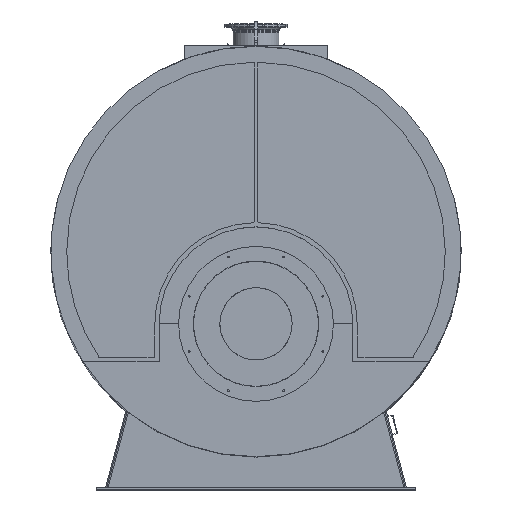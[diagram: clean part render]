
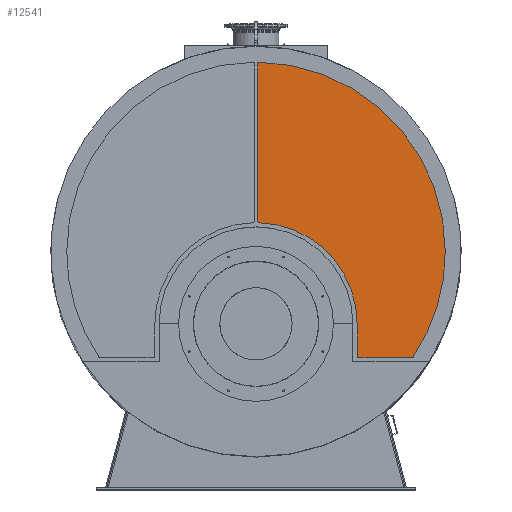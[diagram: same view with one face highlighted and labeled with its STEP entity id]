
A CAD part, top view. The second image highlights one B-rep face of the part: STEP entity #12541.
In plain terms, the highlighted planar face has unit normal (0, 0, 1).
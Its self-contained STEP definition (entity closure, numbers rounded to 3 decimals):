
#12348=CARTESIAN_POINT('',(15.,229.221,413.));
#12349=VERTEX_POINT('',#12348);
#12356=CARTESIAN_POINT('',(15.,1460.349,413.));
#12357=VERTEX_POINT('',#12356);
#12358=CARTESIAN_POINT('',(15.,1460.349,413.));
#12359=DIRECTION('',(-0.,-1.,0.));
#12360=VECTOR('',#12359,1231.128);
#12361=LINE('',#12358,#12360);
#12362=EDGE_CURVE('',#12357,#12349,#12361,.T.);
#12378=CARTESIAN_POINT('',(20.84,223.223,413.));
#12379=VERTEX_POINT('',#12378);
#12380=CARTESIAN_POINT('',(783.5,-560.,413.));
#12381=VERTEX_POINT('',#12380);
#12382=CARTESIAN_POINT('',(0.,-560.,413.));
#12383=DIRECTION('',(0.,0.,-1.));
#12384=DIRECTION('',(1.,0.,0.));
#12385=AXIS2_PLACEMENT_3D('',#12382,#12383,#12384);
#12386=CIRCLE('',#12385,783.5);
#12387=EDGE_CURVE('',#12379,#12381,#12386,.T.);
#12411=CARTESIAN_POINT('',(783.5,-813.,413.));
#12412=VERTEX_POINT('',#12411);
#12419=CARTESIAN_POINT('',(783.5,-560.,413.));
#12420=DIRECTION('',(0.,-1.,0.));
#12421=VECTOR('',#12420,253.);
#12422=LINE('',#12419,#12421);
#12423=EDGE_CURVE('',#12381,#12412,#12422,.T.);
#12435=CARTESIAN_POINT('',(1213.298,-819.,413.));
#12436=VERTEX_POINT('',#12435);
#12443=CARTESIAN_POINT('',(789.5,-819.,413.));
#12444=VERTEX_POINT('',#12443);
#12445=CARTESIAN_POINT('',(789.5,-819.,413.));
#12446=DIRECTION('',(1.,0.,-0.));
#12447=VECTOR('',#12446,423.798);
#12448=LINE('',#12445,#12447);
#12449=EDGE_CURVE('',#12444,#12436,#12448,.T.);
#12465=CARTESIAN_POINT('',(1466.5,-0.,413.));
#12466=VERTEX_POINT('',#12465);
#12474=CARTESIAN_POINT('',(21.086,1466.348,413.));
#12475=VERTEX_POINT('',#12474);
#12482=CARTESIAN_POINT('',(0.,0.,413.));
#12483=DIRECTION('',(0.,0.,1.));
#12484=DIRECTION('',(1.,0.,-0.));
#12485=AXIS2_PLACEMENT_3D('',#12482,#12483,#12484);
#12486=CIRCLE('',#12485,1466.5);
#12487=EDGE_CURVE('',#12466,#12475,#12486,.T.);
#12492=CARTESIAN_POINT('',(0.,-560.,413.));
#12493=DIRECTION('',(0.,0.,-1.));
#12494=DIRECTION('',(-1.,0.,0.));
#12495=AXIS2_PLACEMENT_3D('',#12492,#12493,#12494);
#12496=PLANE('',#12495);
#12497=ORIENTED_EDGE('',*,*,#12449,.T.);
#12498=CARTESIAN_POINT('',(1218.282,-816.34,413.));
#12499=VERTEX_POINT('',#12498);
#12500=CARTESIAN_POINT('',(1213.298,-813.,413.));
#12501=DIRECTION('',(-0.,-0.,1.));
#12502=DIRECTION('',(-1.,0.,0.));
#12503=AXIS2_PLACEMENT_3D('',#12500,#12501,#12502);
#12504=CIRCLE('',#12503,6.);
#12505=EDGE_CURVE('',#12436,#12499,#12504,.T.);
#12506=ORIENTED_EDGE('',*,*,#12505,.T.);
#12507=CARTESIAN_POINT('',(0.,0.,413.));
#12508=DIRECTION('',(0.,0.,1.));
#12509=DIRECTION('',(1.,0.,-0.));
#12510=AXIS2_PLACEMENT_3D('',#12507,#12508,#12509);
#12511=CIRCLE('',#12510,1466.5);
#12512=EDGE_CURVE('',#12499,#12466,#12511,.T.);
#12513=ORIENTED_EDGE('',*,*,#12512,.T.);
#12514=ORIENTED_EDGE('',*,*,#12487,.T.);
#12515=CARTESIAN_POINT('',(21.,1460.349,413.));
#12516=DIRECTION('',(-0.,-0.,1.));
#12517=DIRECTION('',(-1.,0.,0.));
#12518=AXIS2_PLACEMENT_3D('',#12515,#12516,#12517);
#12519=CIRCLE('',#12518,6.);
#12520=EDGE_CURVE('',#12475,#12357,#12519,.T.);
#12521=ORIENTED_EDGE('',*,*,#12520,.T.);
#12522=ORIENTED_EDGE('',*,*,#12362,.T.);
#12523=CARTESIAN_POINT('',(21.,229.221,413.));
#12524=DIRECTION('',(-0.,-0.,1.));
#12525=DIRECTION('',(-1.,0.,0.));
#12526=AXIS2_PLACEMENT_3D('',#12523,#12524,#12525);
#12527=CIRCLE('',#12526,6.);
#12528=EDGE_CURVE('',#12349,#12379,#12527,.T.);
#12529=ORIENTED_EDGE('',*,*,#12528,.T.);
#12530=ORIENTED_EDGE('',*,*,#12387,.T.);
#12531=ORIENTED_EDGE('',*,*,#12423,.T.);
#12532=CARTESIAN_POINT('',(789.5,-813.,413.));
#12533=DIRECTION('',(-0.,-0.,1.));
#12534=DIRECTION('',(-1.,0.,0.));
#12535=AXIS2_PLACEMENT_3D('',#12532,#12533,#12534);
#12536=CIRCLE('',#12535,6.);
#12537=EDGE_CURVE('',#12412,#12444,#12536,.T.);
#12538=ORIENTED_EDGE('',*,*,#12537,.T.);
#12539=EDGE_LOOP('',(#12497,#12506,#12513,#12514,#12521,#12522,#12529,#12530,#12531,#12538));
#12540=FACE_BOUND('',#12539,.T.);
#12541=ADVANCED_FACE('',(#12540),#12496,.F.);
